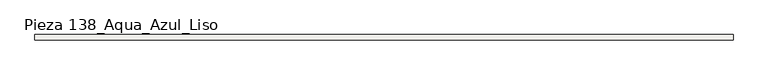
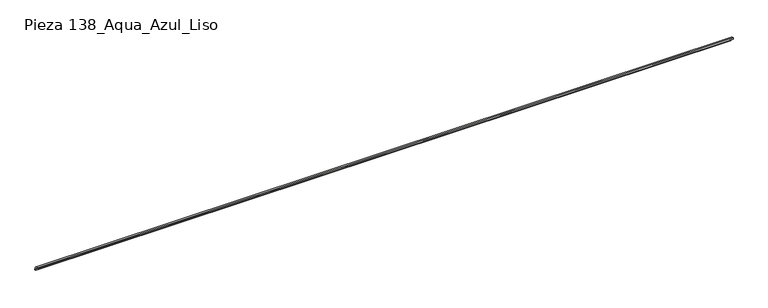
"""IFC4 building model written with IfcOpenShell, lengths in millimetres: slab geometry, ROSA GRES_138 : Pieza 138_Aqua_Azul_Liso."""

import ifcopenshell
import ifcopenshell.guid

model = None  # the IFC model being written
_history = None  # IfcOwnerHistory: only IFC2X3 demands one
_inside = {}  # id of a spatial element -> (the spatial element, [elements in it])
_under = {}  # id of a project, library or spatial element -> (it, [spatial elements below it])
_declared = {}  # id of a project -> (the project, [libraries it declares])
_typed = {}  # id of a type object -> (the type object, [elements of that type])
_made_of = {}  # id of a material, layer set ... -> (it, [elements and type objects made of it])


def new_model(schema):
    """Start an empty IFC model of exactly this schema.

    Asked for "IFC4X3", IfcOpenShell would pick the latest addendum, in which some entities
    have other attributes; the version numbers below select the first issue.
    IFC2X3 requires an IfcOwnerHistory on every rooted entity: one is made here for all.
    """
    global model, _history
    if schema == "IFC4X3":
        model = ifcopenshell.file(schema_version=(4, 3, 0, 0))
    else:
        model = ifcopenshell.file(schema=schema)
    _inside.clear()
    _under.clear()
    _declared.clear()
    _typed.clear()
    _made_of.clear()
    _history = None
    if model.schema == "IFC2X3":
        org = make("IfcOrganization", Name="unknown")
        user = make(
            "IfcPersonAndOrganization",
            ThePerson=make("IfcPerson", FamilyName="unknown"),
            TheOrganization=org,
        )
        app = make(
            "IfcApplication",
            ApplicationDeveloper=org,
            Version="unknown",
            ApplicationFullName="unknown",
            ApplicationIdentifier="unknown",
        )
        _history = make(
            "IfcOwnerHistory",
            OwningUser=user,
            OwningApplication=app,
            ChangeAction="ADDED",
            CreationDate=0,
        )
    return model


def make(cls, **values):
    """One entity of the class cls with the attributes given. An attribute that is None is left unset."""
    return model.create_entity(
        cls, **{name: value for name, value in values.items() if value is not None}
    )


def rooted(cls, **values):
    """An entity with a GlobalId (a new one), such as an element, a storey or a relation."""
    return make(cls, GlobalId=ifcopenshell.guid.new(), OwnerHistory=_history, **values)


def si_unit(unit_type, name, prefix=None):
    """IfcSIUnit, for example si_unit("LENGTHUNIT", "METRE", prefix="MILLI")."""
    return make("IfcSIUnit", UnitType=unit_type, Prefix=prefix, Name=name)


def assignment(units):
    """IfcUnitAssignment: the units of a project."""
    return None if units is None else make("IfcUnitAssignment", Units=units)


def point(xyz):
    """IfcCartesianPoint."""
    return None if xyz is None else make("IfcCartesianPoint", Coordinates=xyz)


def direction(xyz):
    """IfcDirection."""
    return None if xyz is None else make("IfcDirection", DirectionRatios=xyz)


def frame(location, z_axis=None, x_axis=None):
    """IfcAxis2Placement3D, a coordinate frame: its origin and axes. An axis left out is left unset."""
    return make(
        "IfcAxis2Placement3D",
        Location=point(location),
        Axis=direction(z_axis),
        RefDirection=direction(x_axis),
    )


def frame_2d(location, x_axis=None):
    """IfcAxis2Placement2D, a coordinate frame in the plane: its origin and x axis."""
    return make(
        "IfcAxis2Placement2D", Location=point(location), RefDirection=direction(x_axis)
    )


def origin():
    """The frame at (0, 0, 0) with its axes left unset."""
    return frame((0.0, 0.0, 0.0))


def origin_2d():
    """The frame at (0, 0) in the plane with its x axis left unset."""
    return frame_2d((0.0, 0.0))


def place(relative_to, where):
    """IfcLocalPlacement: puts the frame where relative to a parent placement (None: the world)."""
    return make(
        "IfcLocalPlacement", PlacementRelTo=relative_to, RelativePlacement=where
    )


def context(
    kind, dimensions, precision=None, world=None, true_north=None, identifier=None
):
    """IfcGeometricRepresentationContext, for example the 3D "Model" context."""
    return make(
        "IfcGeometricRepresentationContext",
        ContextIdentifier=identifier,
        ContextType=kind,
        CoordinateSpaceDimension=dimensions,
        Precision=precision,
        WorldCoordinateSystem=world,
        TrueNorth=true_north,
    )


def project(units=None, contexts=None):
    """IfcProject with its units and contexts."""
    return rooted(
        "IfcProject",
        Name="project",
        RepresentationContexts=contexts,
        UnitsInContext=assignment(units),
    )


def spatial(cls, under=None, at=None, **own):
    """A site, building, storey or space (cls), placed at a placement, below another one or the project."""
    s = rooted(cls, ObjectPlacement=at, **own)
    if under is not None:
        _under.setdefault(under.id(), (under, []))[1].append(s)
    return s


def polyline(points):
    """IfcPolyline through the points."""
    return make("IfcPolyline", Points=[point(p) for p in points])


def circle_curve(where, radius):
    """IfcCircle in the frame where."""
    return make("IfcCircle", Position=where, Radius=radius)


def trimmed(basis, trim1, trim2, sense, master):
    """IfcTrimmedCurve: the piece of a basis curve between two trims."""
    return make(
        "IfcTrimmedCurve",
        BasisCurve=basis,
        Trim1=trim1,
        Trim2=trim2,
        SenseAgreement=sense,
        MasterRepresentation=master,
    )


def segment(curve, same_sense, transition):
    """IfcCompositeCurveSegment."""
    return make(
        "IfcCompositeCurveSegment",
        Transition=transition,
        SameSense=same_sense,
        ParentCurve=curve,
    )


def composite_curve(segments, self_intersect=None):
    """IfcCompositeCurve: segments joined end to end."""
    return make("IfcCompositeCurve", Segments=segments, SelfIntersect=self_intersect)


def outline(outer, holes=None, kind="AREA"):
    """IfcArbitraryClosedProfileDef: a profile drawn as a closed curve; with holes, ...WithVoids."""
    if holes is None:
        return make("IfcArbitraryClosedProfileDef", ProfileType=kind, OuterCurve=outer)
    return make(
        "IfcArbitraryProfileDefWithVoids",
        ProfileType=kind,
        OuterCurve=outer,
        InnerCurves=holes,
    )


def extrude(swept, where, along, depth):
    """IfcExtrudedAreaSolid: the profile swept, set in the frame where, extruded along a direction by depth."""
    return make(
        "IfcExtrudedAreaSolid",
        SweptArea=swept,
        Position=where,
        ExtrudedDirection=direction(along),
        Depth=depth,
    )


def shape(context_of_items, identifier, shape_type, items):
    """IfcShapeRepresentation: the items that make up one representation, for example the "Body"."""
    return make(
        "IfcShapeRepresentation",
        ContextOfItems=context_of_items,
        RepresentationIdentifier=identifier,
        RepresentationType=shape_type,
        Items=items,
    )


def source(mapping_origin, context_of_items, identifier, shape_type, items):
    """IfcRepresentationMap: a shape defined once, which mapped items show again and again."""
    return make(
        "IfcRepresentationMap",
        MappingOrigin=mapping_origin,
        MappedRepresentation=shape(context_of_items, identifier, shape_type, items),
    )


def transform(
    local_origin,
    x_axis=None,
    y_axis=None,
    z_axis=None,
    scale=None,
    scale2=None,
    scale3=None,
    uniform=True,
):
    """IfcCartesianTransformationOperator3D, or its non-uniform kind. x_axis, y_axis, z_axis: its Axis1, 2, 3."""
    if uniform:
        return make(
            "IfcCartesianTransformationOperator3D",
            Axis1=direction(x_axis),
            Axis2=direction(y_axis),
            LocalOrigin=point(local_origin),
            Scale=scale,
            Axis3=direction(z_axis),
        )
    return make(
        "IfcCartesianTransformationOperator3DnonUniform",
        Axis1=direction(x_axis),
        Axis2=direction(y_axis),
        LocalOrigin=point(local_origin),
        Scale=scale,
        Axis3=direction(z_axis),
        Scale2=scale2,
        Scale3=scale3,
    )


def mapped(mapping_source, mapping_target):
    """IfcMappedItem: shows the shape of a source again, moved by a transform."""
    return make(
        "IfcMappedItem", MappingSource=mapping_source, MappingTarget=mapping_target
    )


def made_of(thing, what):
    """Note that an element or type object is made of a material, layer set ...; save() writes the relation."""
    if what is not None:
        _made_of.setdefault(what.id(), (what, []))[1].append(thing)
    return thing


def element(
    cls,
    number,
    at=None,
    inside=None,
    cuts=None,
    type_object=None,
    material=None,
    context=None,
    identifier="Body",
    shape_type=None,
    held_by="IfcProductDefinitionShape",
    body=None,
    shapes=None,
    **own,
):
    """One element of the class cls, such as IfcWall. Its Tag is "e" and its number.

    at: its placement. inside: the storey or other place that contains it. cuts: it is an
    opening in that element (IfcRelVoidsElement). A single representation is given by context,
    identifier, shape_type and body (its items); several are given by shapes. held_by: the class
    of the entity that holds the representations. save() writes the other relations.
    """
    e = rooted(cls, Tag="e%d" % number, ObjectPlacement=at, **own)
    if body is not None:
        shapes = [shape(context, identifier, shape_type, body)]
    if shapes is not None:
        e.Representation = make(held_by, Representations=shapes)
    if inside is not None:
        _inside.setdefault(inside.id(), (inside, []))[1].append(e)
    if cuts is not None:
        rooted(
            "IfcRelVoidsElement", RelatingBuildingElement=cuts, RelatedOpeningElement=e
        )
    if type_object is not None:
        _typed.setdefault(type_object.id(), (type_object, []))[1].append(e)
    return made_of(e, material)


def aggregate(whole, parts):
    """IfcRelAggregates: a whole, such as a stair, and the parts it consists of."""
    return rooted("IfcRelAggregates", RelatingObject=whole, RelatedObjects=parts)


def save(model, path):
    """Write the relations noted so far, then the file.

    IfcRelAggregates (storeys below a building ...), IfcRelContainedInSpatialStructure (elements
    in a storey), IfcRelDefinesByType, IfcRelAssociatesMaterial and IfcRelDeclares: one each for
    every whole, place, type object, material and project.
    """
    for whole, parts in _under.values():
        aggregate(whole, parts)
    for where, things in _inside.values():
        rooted(
            "IfcRelContainedInSpatialStructure",
            RelatedElements=things,
            RelatingStructure=where,
        )
    for kind, things in _typed.values():
        rooted("IfcRelDefinesByType", RelatedObjects=things, RelatingType=kind)
    for what, things in _made_of.values():
        rooted("IfcRelAssociatesMaterial", RelatedObjects=things, RelatingMaterial=what)
    for by, libraries in _declared.values():
        rooted("IfcRelDeclares", RelatingContext=by, RelatedDefinitions=libraries)
    model.write(path)


def pieza_138_aqua_azul_liso_2c4e594e(model_context):
    return source(origin(), model_context, "Body", "SweptSolid", [
        extrude(outline(composite_curve([segment(trimmed(circle_curve(origin_2d(), 40.0), [point((0.0, 40.0))], [point((40.0, 0.0))], False, "CARTESIAN"), True, "CONTINUOUS"), segment(polyline([(40.0, 0.0), (30.0265886, 0.0)]), True, "CONTINUOUS"), segment(trimmed(circle_curve(frame_2d((0.0044453, 0.0044453)), 30.0221435), [point((30.0265886, 0.0))], [point((0.0, 30.0265886))], True, "CARTESIAN"), True, "CONTINUOUS"), segment(polyline([(0.0, 30.0265886), (0.0, 40.0)]), True, "CONTINUOUS")], self_intersect=False)), frame((0.0, 0.0, 0.0), z_axis=(1.0, 0.0, 0.0), x_axis=(0.0, 1.0, 0.0)), (0.0, 0.0, 1.0), 5197.7953045),
    ])


if __name__ == "__main__":
    model = new_model("IFC4")
    model_context = context("Model", 3, world=origin())
    ifc_project = project(units=[si_unit("LENGTHUNIT", "METRE", prefix="MILLI")], contexts=[model_context])
    site = spatial("IfcSite", under=ifc_project)
    building = spatial("IfcBuilding", under=site)
    placement = place(None, origin())
    pieza_138_aqua_azul_liso_shape = pieza_138_aqua_azul_liso_2c4e594e(model_context)
    element("IfcSlab", 1, ObjectType="ROSA GRES_138 : Pieza 138_Aqua_Azul_Liso", at=placement, inside=building, context=model_context, shape_type="MappedRepresentation", body=[
        mapped(pieza_138_aqua_azul_liso_shape, transform((0.0, 0.0, 0.0), x_axis=(1.0, 0.0, 0.0), y_axis=(0.0, 1.0, 0.0), z_axis=(0.0, 0.0, 1.0))),
    ])
    save(model, "model.ifc")
